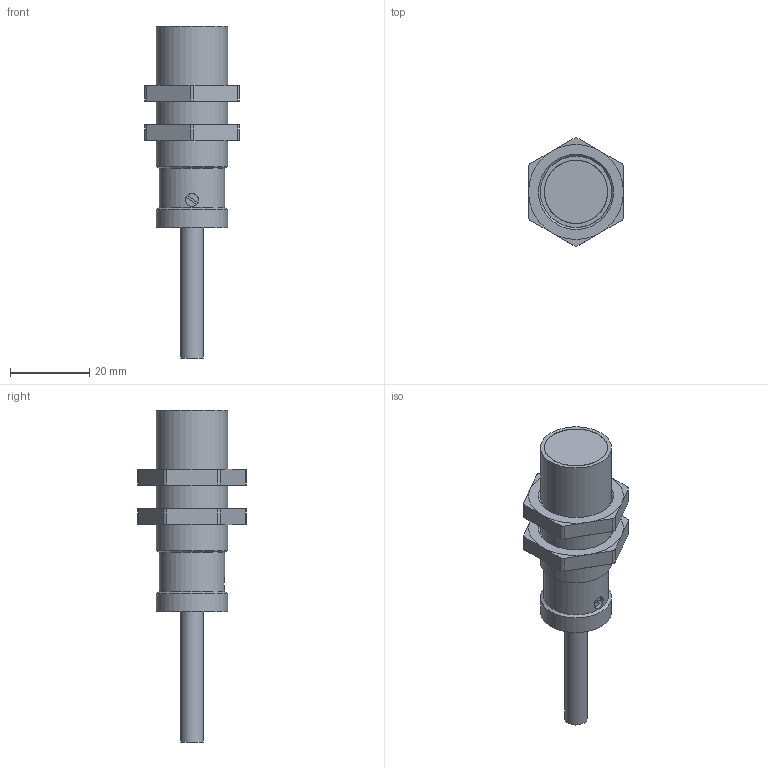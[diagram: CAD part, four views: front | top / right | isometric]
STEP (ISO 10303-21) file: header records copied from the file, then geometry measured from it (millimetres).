
FILE_DESCRIPTION((''),'2;1');
FILE_NAME('Q:\Konstruktion\E-Mail-Zeichnungen\STEP\KL-M18-A2.0_0687_01.stp','2011-06-28T11:06:28',('GuentherB'),(''),'Autodesk Inventor 2011','Autodesk Inventor 2011','');
FILE_SCHEMA(('AUTOMOTIVE_DESIGN { 1 0 10303 214 1 1 1 1 }'));
Length unit declared in the file: millimetre
Products named in the file (1): Bauteil1
Bounding box: 24 x 27.4 x 84 mm (x, y, z)
Volume: 15286.2 mm3; surface area: 5631.3 mm2
Topology: 2 solids, 2 shells, 84 faces, 190 edges, 118 vertices
Faces by surface type: plane 53, cylinder 23, cone 8
Full cylindrical faces by diameter (mm): 3.242 x1, 5.7 x1, 6 x1, 6.65 x1, 16 x1, 16.05 x1, 16.5 x1, 18 x4
Entity records: 2315 total; most frequent: DIRECTION 406, CARTESIAN_POINT 384, ORIENTED_EDGE 318, AXIS2_PLACEMENT_3D 163, EDGE_CURVE 159, EDGE_LOOP 112, VERTEX_POINT 107, FACE_OUTER_BOUND 84
